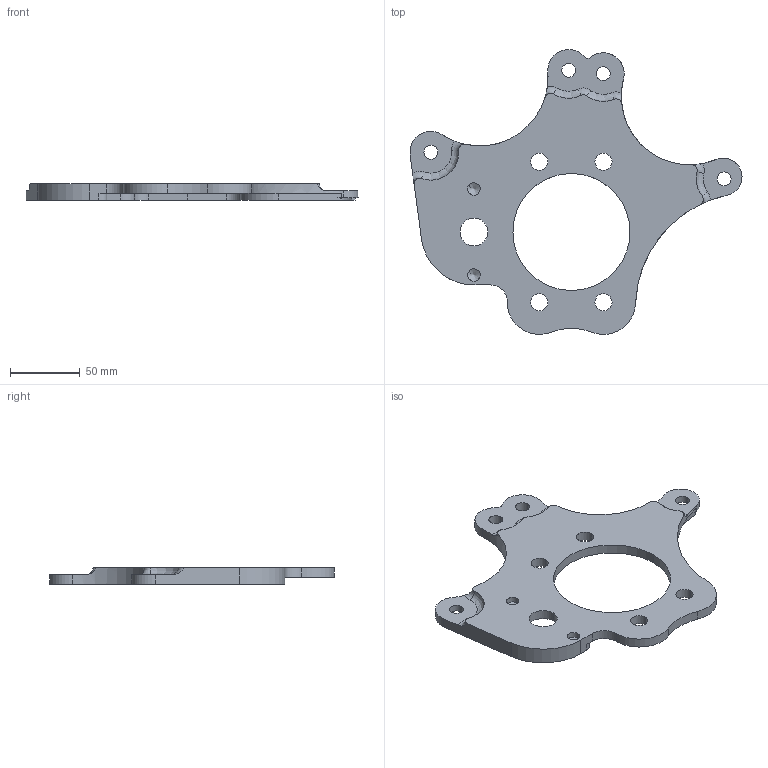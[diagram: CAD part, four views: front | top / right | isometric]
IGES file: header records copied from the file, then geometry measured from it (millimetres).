
Start section: START RECORD GO HERE.
Global section: file name: Support_EtriersAR_S14.igs; native system: DASSAULT SYSTEMES CATIA Version 5-6 Release 2013 - www.3ds.com; preprocessor: V5-6R2013_5.23.0.0.10-18-2012.20.00; author: Thomas; organization: TOM; date: 20160216.141204; units: millimetre
Bounding box: 238.32 x 204.44 x 12 mm (x, y, z)
Surface area: 51884.4 mm2 (no closed solid volume)
Topology: 0 solids, 0 shells, 82 faces, 468 edges, 464 vertices
Faces by surface type: revolution 62, plane 20
